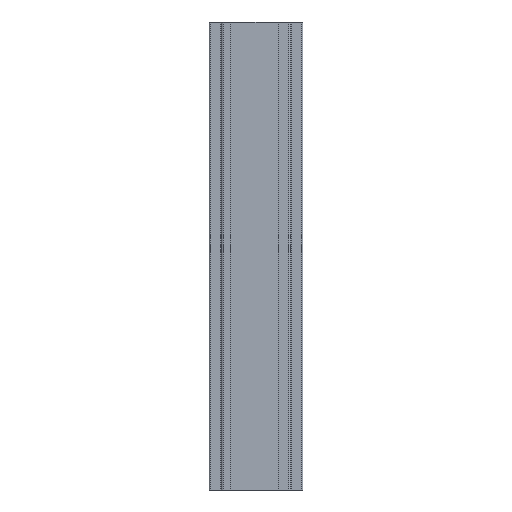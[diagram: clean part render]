
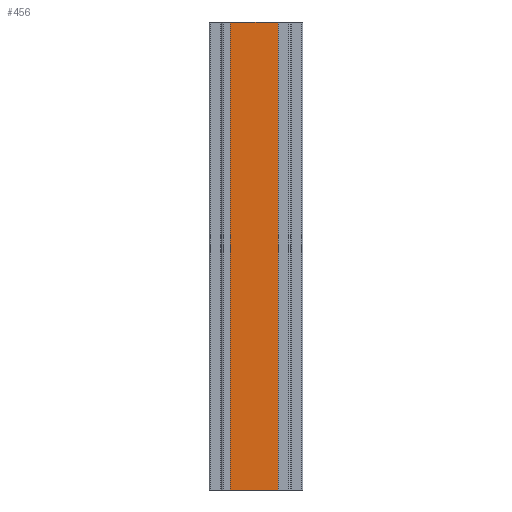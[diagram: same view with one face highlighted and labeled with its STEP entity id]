
A CAD part, left-side view. The second image highlights one B-rep face of the part: STEP entity #456.
In plain terms, the highlighted planar face has unit normal (-1, 0, 0).
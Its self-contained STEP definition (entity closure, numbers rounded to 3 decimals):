
#400=CARTESIAN_POINT('',(-0.091,-12.419,200.0));
#401=VERTEX_POINT('',#400);
#408=CARTESIAN_POINT('',(-0.091,-12.419,0.0));
#409=VERTEX_POINT('',#408);
#410=CARTESIAN_POINT('',(-0.091,-12.419,0.0));
#411=DIRECTION('',(0.0,0.0,1.0));
#412=VECTOR('',#411,200.0);
#413=LINE('',#410,#412);
#414=EDGE_CURVE('',#409,#401,#413,.T.);
#426=CARTESIAN_POINT('',(-0.091,-12.419,0.0));
#427=DIRECTION('',(-1.0,0.0,0.0));
#428=DIRECTION('',(0.0,0.0,1.0));
#429=AXIS2_PLACEMENT_3D('',#426,#427,#428);
#430=PLANE('',#429);
#431=CARTESIAN_POINT('',(-0.091,12.781,200.0));
#432=VERTEX_POINT('',#431);
#433=CARTESIAN_POINT('',(-0.091,-12.419,200.0));
#434=DIRECTION('',(0.0,1.0,0.0));
#435=VECTOR('',#434,25.2);
#436=LINE('',#433,#435);
#437=EDGE_CURVE('',#401,#432,#436,.T.);
#438=ORIENTED_EDGE('',*,*,#437,.T.);
#439=CARTESIAN_POINT('',(-0.091,12.781,0.0));
#440=VERTEX_POINT('',#439);
#441=CARTESIAN_POINT('',(-0.091,12.781,0.0));
#442=DIRECTION('',(0.0,0.0,1.0));
#443=VECTOR('',#442,200.0);
#444=LINE('',#441,#443);
#445=EDGE_CURVE('',#440,#432,#444,.T.);
#446=ORIENTED_EDGE('',*,*,#445,.F.);
#447=CARTESIAN_POINT('',(-0.091,-12.419,0.0));
#448=DIRECTION('',(0.0,1.0,0.0));
#449=VECTOR('',#448,25.2);
#450=LINE('',#447,#449);
#451=EDGE_CURVE('',#409,#440,#450,.T.);
#452=ORIENTED_EDGE('',*,*,#451,.F.);
#453=ORIENTED_EDGE('',*,*,#414,.T.);
#454=EDGE_LOOP('',(#438,#446,#452,#453));
#455=FACE_OUTER_BOUND('',#454,.T.);
#456=ADVANCED_FACE('',(#455),#430,.T.);
